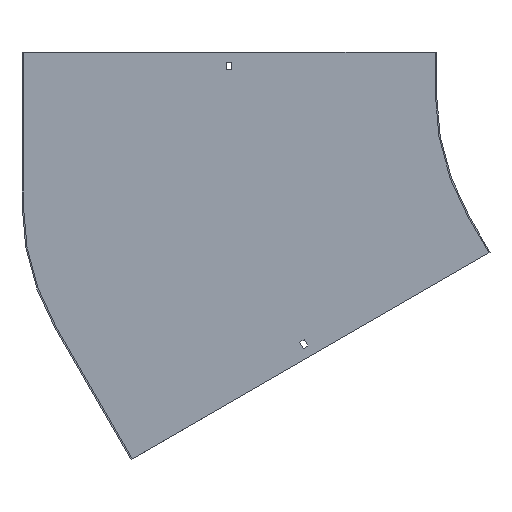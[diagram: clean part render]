
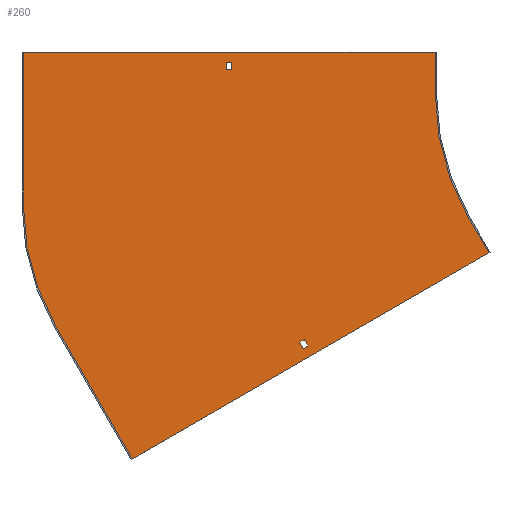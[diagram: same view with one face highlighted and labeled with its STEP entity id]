
A CAD part, front view. The second image highlights one B-rep face of the part: STEP entity #260.
In plain terms, the highlighted planar face has unit normal (0, -1, 0).
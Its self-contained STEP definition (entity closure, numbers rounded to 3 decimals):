
#15 = CARTESIAN_POINT ( 'NONE',  ( -464.629, -1.5, -301.74 ) ) ;
#23 = LINE ( 'NONE', #280, #196 ) ;
#31 = DIRECTION ( 'NONE',  ( 0., 0., -1. ) ) ;
#34 = LINE ( 'NONE', #484, #231 ) ;
#37 = ORIENTED_EDGE ( 'NONE', *, *, #45, .T. ) ;
#41 = VERTEX_POINT ( 'NONE', #663 ) ;
#45 = EDGE_CURVE ( 'NONE', #411, #41, #268, .T. ) ;
#46 = CARTESIAN_POINT ( 'NONE',  ( -800., -1.5, -133.975 ) ) ;
#52 = LINE ( 'NONE', #46, #524 ) ;
#66 = ORIENTED_EDGE ( 'NONE', *, *, #589, .T. ) ;
#75 = DIRECTION ( 'NONE',  ( 0., 0., -1. ) ) ;
#79 = ORIENTED_EDGE ( 'NONE', *, *, #636, .F. ) ;
#86 = VERTEX_POINT ( 'NONE', #587 ) ;
#94 = DIRECTION ( 'NONE',  ( 0., -1., 0. ) ) ;
#97 = DIRECTION ( 'NONE',  ( 0., 1., 0. ) ) ;
#98 = CARTESIAN_POINT ( 'NONE',  ( -259.808, -1.5, -150. ) ) ;
#102 = FACE_OUTER_BOUND ( 'NONE', #658, .T. ) ;
#104 = AXIS2_PLACEMENT_3D ( 'NONE', #303, #846, #366 ) ;
#105 = VECTOR ( 'NONE', #297, 1000. ) ;
#108 = PLANE ( 'NONE',  #104 ) ;
#116 = CARTESIAN_POINT ( 'NONE',  ( -800., -1.5, -133.975 ) ) ;
#118 = CARTESIAN_POINT ( 'NONE',  ( -667.82, -1.5, -443.301 ) ) ;
#122 = EDGE_LOOP ( 'NONE', ( #66, #523, #37, #327 ) ) ;
#139 = EDGE_CURVE ( 'NONE', #490, #808, #793, .T. ) ;
#141 = LINE ( 'NONE', #403, #445 ) ;
#142 = DIRECTION ( 'NONE',  ( 0., 0., 1. ) ) ;
#144 = VECTOR ( 'NONE', #680, 1000. ) ;
#159 = VERTEX_POINT ( 'NONE', #15 ) ;
#160 = DIRECTION ( 'NONE',  ( 0.5, 0., -0.866 ) ) ;
#167 = ORIENTED_EDGE ( 'NONE', *, *, #228, .F. ) ;
#169 = AXIS2_PLACEMENT_3D ( 'NONE', #607, #94, #554 ) ;
#177 = CARTESIAN_POINT ( 'NONE',  ( -454.499, -1.5, -306.284 ) ) ;
#180 = DIRECTION ( 'NONE',  ( 0., 0., 1. ) ) ;
#186 = EDGE_CURVE ( 'NONE', #41, #270, #662, .T. ) ;
#190 = DIRECTION ( 'NONE',  ( -0.866, 0., -0.5 ) ) ;
#195 = DIRECTION ( 'NONE',  ( -0.5, 0., 0.866 ) ) ;
#196 = VECTOR ( 'NONE', #547, 1000. ) ;
#200 = CARTESIAN_POINT ( 'NONE',  ( -300., -1.5, 50. ) ) ;
#207 = EDGE_CURVE ( 'NONE', #805, #324, #23, .T. ) ;
#213 = ORIENTED_EDGE ( 'NONE', *, *, #414, .F. ) ;
#214 = EDGE_CURVE ( 'NONE', #774, #159, #817, .T. ) ;
#221 = VERTEX_POINT ( 'NONE', #767 ) ;
#228 = EDGE_CURVE ( 'NONE', #719, #490, #241, .T. ) ;
#231 = VECTOR ( 'NONE', #619, 1000. ) ;
#241 = LINE ( 'NONE', #701, #372 ) ;
#254 = LINE ( 'NONE', #516, #373 ) ;
#260 = ADVANCED_FACE ( 'NONE', ( #497, #102, #300 ), #108, .T. ) ;
#265 = VECTOR ( 'NONE', #75, 1000. ) ;
#268 = LINE ( 'NONE', #802, #454 ) ;
#270 = VERTEX_POINT ( 'NONE', #363 ) ;
#271 = CARTESIAN_POINT ( 'NONE',  ( -458.999, -1.5, -298.49 ) ) ;
#276 = CARTESIAN_POINT ( 'NONE',  ( -759.808, -1.5, -283.975 ) ) ;
#280 = CARTESIAN_POINT ( 'NONE',  ( 19., -1.5, -32.909 ) ) ;
#288 = DIRECTION ( 'NONE',  ( -0.5, 0., 0.866 ) ) ;
#297 = DIRECTION ( 'NONE',  ( 0.5, 0., -0.866 ) ) ;
#300 = FACE_BOUND ( 'NONE', #122, .T. ) ;
#303 = CARTESIAN_POINT ( 'NONE',  ( 0., -1.5, 0. ) ) ;
#307 = VECTOR ( 'NONE', #160, 1000. ) ;
#324 = VERTEX_POINT ( 'NONE', #177 ) ;
#327 = ORIENTED_EDGE ( 'NONE', *, *, #186, .T. ) ;
#348 = ORIENTED_EDGE ( 'NONE', *, *, #440, .F. ) ;
#363 = CARTESIAN_POINT ( 'NONE',  ( -553.25, -1.5, 38. ) ) ;
#364 = CIRCLE ( 'NONE', #857, 300. ) ;
#366 = DIRECTION ( 'NONE',  ( 0., 0., -1. ) ) ;
#367 = LINE ( 'NONE', #98, #105 ) ;
#370 = DIRECTION ( 'NONE',  ( 1., 0., 0. ) ) ;
#372 = VECTOR ( 'NONE', #426, 1000. ) ;
#373 = VECTOR ( 'NONE', #370, 1000. ) ;
#378 = EDGE_CURVE ( 'NONE', #86, #620, #585, .T. ) ;
#379 = CARTESIAN_POINT ( 'NONE',  ( -259.808, -1.5, -150. ) ) ;
#383 = VECTOR ( 'NONE', #142, 1000. ) ;
#387 = ORIENTED_EDGE ( 'NONE', *, *, #207, .F. ) ;
#390 = CARTESIAN_POINT ( 'NONE',  ( -546.75, -1.5, 29. ) ) ;
#395 = ORIENTED_EDGE ( 'NONE', *, *, #843, .F. ) ;
#403 = CARTESIAN_POINT ( 'NONE',  ( -473.499, -1.5, -273.375 ) ) ;
#411 = VERTEX_POINT ( 'NONE', #390 ) ;
#413 = CARTESIAN_POINT ( 'NONE',  ( 14.5, -1.5, -25.115 ) ) ;
#414 = EDGE_CURVE ( 'NONE', #159, #805, #553, .T. ) ;
#426 = DIRECTION ( 'NONE',  ( 1., 0., 0. ) ) ;
#428 = CARTESIAN_POINT ( 'NONE',  ( -300., -1.5, 50. ) ) ;
#440 = EDGE_CURVE ( 'NONE', #762, #550, #364, .T. ) ;
#445 = VECTOR ( 'NONE', #288, 1000. ) ;
#454 = VECTOR ( 'NONE', #730, 1000. ) ;
#476 = EDGE_CURVE ( 'NONE', #849, #86, #367, .T. ) ;
#484 = CARTESIAN_POINT ( 'NONE',  ( -546.75, -1.5, 0. ) ) ;
#490 = VERTEX_POINT ( 'NONE', #428 ) ;
#497 = FACE_BOUND ( 'NONE', #540, .T. ) ;
#503 = ORIENTED_EDGE ( 'NONE', *, *, #579, .F. ) ;
#512 = CARTESIAN_POINT ( 'NONE',  ( -667.82, -1.5, -443.301 ) ) ;
#516 = CARTESIAN_POINT ( 'NONE',  ( 0., -1.5, 38. ) ) ;
#523 = ORIENTED_EDGE ( 'NONE', *, *, #671, .T. ) ;
#524 = VECTOR ( 'NONE', #180, 1000. ) ;
#527 = CARTESIAN_POINT ( 'NONE',  ( -800., -1.5, 50. ) ) ;
#540 = EDGE_LOOP ( 'NONE', ( #759, #387, #213, #549 ) ) ;
#546 = CARTESIAN_POINT ( 'NONE',  ( -300., -1.5, 0. ) ) ;
#547 = DIRECTION ( 'NONE',  ( 0.866, 0., 0.5 ) ) ;
#549 = ORIENTED_EDGE ( 'NONE', *, *, #214, .F. ) ;
#550 = VERTEX_POINT ( 'NONE', #116 ) ;
#553 = LINE ( 'NONE', #839, #307 ) ;
#554 = DIRECTION ( 'NONE',  ( 0., 0., -1. ) ) ;
#555 = ORIENTED_EDGE ( 'NONE', *, *, #378, .F. ) ;
#574 = ORIENTED_EDGE ( 'NONE', *, *, #139, .F. ) ;
#579 = EDGE_CURVE ( 'NONE', #550, #719, #52, .T. ) ;
#585 = LINE ( 'NONE', #784, #765 ) ;
#587 = CARTESIAN_POINT ( 'NONE',  ( -234.808, -1.5, -193.301 ) ) ;
#588 = ORIENTED_EDGE ( 'NONE', *, *, #476, .F. ) ;
#589 = EDGE_CURVE ( 'NONE', #270, #221, #254, .T. ) ;
#598 = CIRCLE ( 'NONE', #169, 300. ) ;
#607 = CARTESIAN_POINT ( 'NONE',  ( 0., -1.5, 0. ) ) ;
#612 = CARTESIAN_POINT ( 'NONE',  ( -460.129, -1.5, -309.534 ) ) ;
#619 = DIRECTION ( 'NONE',  ( 0., 0., -1. ) ) ;
#620 = VERTEX_POINT ( 'NONE', #512 ) ;
#636 = EDGE_CURVE ( 'NONE', #808, #849, #598, .T. ) ;
#658 = EDGE_LOOP ( 'NONE', ( #167, #503, #348, #395, #555, #588, #79, #574 ) ) ;
#662 = LINE ( 'NONE', #788, #383 ) ;
#663 = CARTESIAN_POINT ( 'NONE',  ( -553.25, -1.5, 29. ) ) ;
#671 = EDGE_CURVE ( 'NONE', #221, #411, #34, .T. ) ;
#680 = DIRECTION ( 'NONE',  ( -0.866, 0., -0.5 ) ) ;
#696 = CARTESIAN_POINT ( 'NONE',  ( -500., -1.5, -133.975 ) ) ;
#701 = CARTESIAN_POINT ( 'NONE',  ( -801.5, -1.5, 50. ) ) ;
#719 = VERTEX_POINT ( 'NONE', #527 ) ;
#730 = DIRECTION ( 'NONE',  ( -1., 0., 0. ) ) ;
#759 = ORIENTED_EDGE ( 'NONE', *, *, #773, .F. ) ;
#762 = VERTEX_POINT ( 'NONE', #276 ) ;
#765 = VECTOR ( 'NONE', #190, 1000. ) ;
#767 = CARTESIAN_POINT ( 'NONE',  ( -546.75, -1.5, 38. ) ) ;
#773 = EDGE_CURVE ( 'NONE', #324, #774, #141, .T. ) ;
#774 = VERTEX_POINT ( 'NONE', #271 ) ;
#784 = CARTESIAN_POINT ( 'NONE',  ( -233.509, -1.5, -192.551 ) ) ;
#788 = CARTESIAN_POINT ( 'NONE',  ( -553.25, -1.5, 0. ) ) ;
#791 = LINE ( 'NONE', #118, #850 ) ;
#793 = LINE ( 'NONE', #200, #265 ) ;
#802 = CARTESIAN_POINT ( 'NONE',  ( 0., -1.5, 29. ) ) ;
#805 = VERTEX_POINT ( 'NONE', #612 ) ;
#808 = VERTEX_POINT ( 'NONE', #546 ) ;
#817 = LINE ( 'NONE', #413, #144 ) ;
#839 = CARTESIAN_POINT ( 'NONE',  ( -479.129, -1.5, -276.625 ) ) ;
#843 = EDGE_CURVE ( 'NONE', #620, #762, #791, .T. ) ;
#846 = DIRECTION ( 'NONE',  ( 0., -1., 0. ) ) ;
#849 = VERTEX_POINT ( 'NONE', #379 ) ;
#850 = VECTOR ( 'NONE', #195, 1000. ) ;
#857 = AXIS2_PLACEMENT_3D ( 'NONE', #696, #97, #31 ) ;
